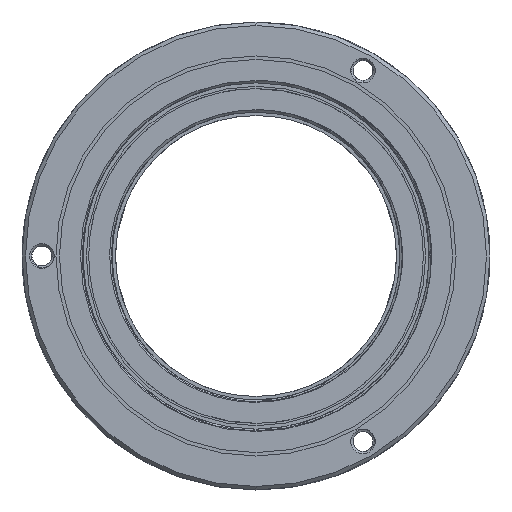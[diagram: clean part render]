
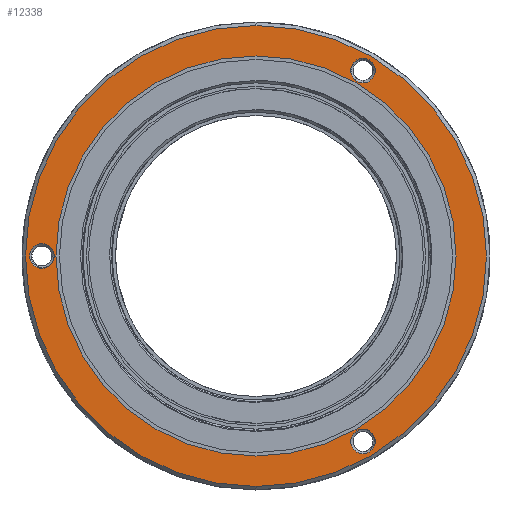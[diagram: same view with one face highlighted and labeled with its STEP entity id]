
A CAD part, left-side view. The second image highlights one B-rep face of the part: STEP entity #12338.
In plain terms, the highlighted planar face has unit normal (-1, 0, 0).
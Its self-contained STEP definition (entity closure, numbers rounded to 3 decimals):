
#402 = ORIENTED_EDGE ( 'NONE', *, *, #12889, .F. ) ;
#544 = VERTEX_POINT ( 'NONE', #948 ) ;
#570 = CARTESIAN_POINT ( 'NONE',  ( 9., 20., 0. ) ) ;
#582 = CARTESIAN_POINT ( 'NONE',  ( 9., 0., 0. ) ) ;
#648 = CARTESIAN_POINT ( 'NONE',  ( 9., 0., -17.1 ) ) ;
#948 = CARTESIAN_POINT ( 'NONE',  ( 9., -9.15, 14.798 ) ) ;
#2121 = FACE_OUTER_BOUND ( 'NONE', #4840, .T. ) ;
#2262 = DIRECTION ( 'NONE',  ( 1., 0., 0. ) ) ;
#2335 = DIRECTION ( 'NONE',  ( 1., 0., 0. ) ) ;
#2350 = DIRECTION ( 'NONE',  ( 0., 0., 1. ) ) ;
#2578 = CARTESIAN_POINT ( 'NONE',  ( 9., 0., 0. ) ) ;
#3003 = ORIENTED_EDGE ( 'NONE', *, *, #12317, .F. ) ;
#3728 = AXIS2_PLACEMENT_3D ( 'NONE', #15218, #4792, #16881 ) ;
#4066 = DIRECTION ( 'NONE',  ( -1., 0., 0. ) ) ;
#4214 = ORIENTED_EDGE ( 'NONE', *, *, #11801, .F. ) ;
#4405 = DIRECTION ( 'NONE',  ( 0., 0., -1. ) ) ;
#4417 = EDGE_CURVE ( 'NONE', #10487, #18039, #16219, .T. ) ;
#4422 = CARTESIAN_POINT ( 'NONE',  ( 9., 0., 17.1 ) ) ;
#4792 = DIRECTION ( 'NONE',  ( -1., 0., 0. ) ) ;
#4821 = VERTEX_POINT ( 'NONE', #14118 ) ;
#4840 = EDGE_LOOP ( 'NONE', ( #6150, #19994 ) ) ;
#5363 = DIRECTION ( 'NONE',  ( -1., 0., 0. ) ) ;
#5507 = AXIS2_PLACEMENT_3D ( 'NONE', #2578, #14859, #4405 ) ;
#6150 = ORIENTED_EDGE ( 'NONE', *, *, #22159, .F. ) ;
#6274 = AXIS2_PLACEMENT_3D ( 'NONE', #13685, #13617, #13599 ) ;
#6275 = AXIS2_PLACEMENT_3D ( 'NONE', #14556, #4066, #16238 ) ;
#6389 = CIRCLE ( 'NONE', #5507, 19.7 ) ;
#6593 = CIRCLE ( 'NONE', #18217, 1.05 ) ;
#6810 = CARTESIAN_POINT ( 'NONE',  ( 9., -9.15, -15.848 ) ) ;
#6908 = FACE_BOUND ( 'NONE', #17704, .T. ) ;
#8635 = DIRECTION ( 'NONE',  ( 0., 0., 1. ) ) ;
#8964 = EDGE_CURVE ( 'NONE', #13543, #16098, #6389, .T. ) ;
#9273 = CIRCLE ( 'NONE', #19280, 1.05 ) ;
#9442 = DIRECTION ( 'NONE',  ( -1., 0., 0. ) ) ;
#9827 = CIRCLE ( 'NONE', #18178, 19.7 ) ;
#10216 = CARTESIAN_POINT ( 'NONE',  ( 9., -9.15, 15.848 ) ) ;
#10415 = ORIENTED_EDGE ( 'NONE', *, *, #21097, .F. ) ;
#10487 = VERTEX_POINT ( 'NONE', #4422 ) ;
#10867 = EDGE_CURVE ( 'NONE', #11846, #15901, #6593, .T. ) ;
#11611 = EDGE_LOOP ( 'NONE', ( #4214, #15083 ) ) ;
#11669 = FACE_BOUND ( 'NONE', #18437, .T. ) ;
#11801 = EDGE_CURVE ( 'NONE', #13019, #19477, #13260, .T. ) ;
#11846 = VERTEX_POINT ( 'NONE', #12016 ) ;
#11958 = DIRECTION ( 'NONE',  ( 0., 0., 1. ) ) ;
#12016 = CARTESIAN_POINT ( 'NONE',  ( 9., -9.15, -14.798 ) ) ;
#12200 = AXIS2_PLACEMENT_3D ( 'NONE', #570, #2335, #14633 ) ;
#12317 = EDGE_CURVE ( 'NONE', #15901, #11846, #13241, .T. ) ;
#12338 = ADVANCED_FACE ( 'NONE', ( #17108, #20440, #11669, #6908, #2121 ), #21215, .F. ) ;
#12572 = CIRCLE ( 'NONE', #21744, 17.1 ) ;
#12889 = EDGE_CURVE ( 'NONE', #4821, #544, #15319, .T. ) ;
#12912 = CARTESIAN_POINT ( 'NONE',  ( 9., 0., 0. ) ) ;
#12986 = DIRECTION ( 'NONE',  ( -1., 0., 0. ) ) ;
#13019 = VERTEX_POINT ( 'NONE', #19576 ) ;
#13241 = CIRCLE ( 'NONE', #6275, 1.05 ) ;
#13260 = CIRCLE ( 'NONE', #3728, 1.05 ) ;
#13543 = VERTEX_POINT ( 'NONE', #22300 ) ;
#13599 = DIRECTION ( 'NONE',  ( 0., 0., 1. ) ) ;
#13615 = AXIS2_PLACEMENT_3D ( 'NONE', #10216, #21869, #11958 ) ;
#13617 = DIRECTION ( 'NONE',  ( -1., 0., 0. ) ) ;
#13685 = CARTESIAN_POINT ( 'NONE',  ( 9., 0., 0. ) ) ;
#13738 = CARTESIAN_POINT ( 'NONE',  ( 9., -9.15, -16.898 ) ) ;
#14118 = CARTESIAN_POINT ( 'NONE',  ( 9., -9.15, 16.898 ) ) ;
#14556 = CARTESIAN_POINT ( 'NONE',  ( 9., -9.15, -15.848 ) ) ;
#14560 = DIRECTION ( 'NONE',  ( 0., 0., -1. ) ) ;
#14633 = DIRECTION ( 'NONE',  ( 0., 0., -1. ) ) ;
#14859 = DIRECTION ( 'NONE',  ( 1., 0., 0. ) ) ;
#15083 = ORIENTED_EDGE ( 'NONE', *, *, #22147, .F. ) ;
#15218 = CARTESIAN_POINT ( 'NONE',  ( 9., 18.3, 0. ) ) ;
#15319 = CIRCLE ( 'NONE', #13615, 1.05 ) ;
#15753 = CARTESIAN_POINT ( 'NONE',  ( 9., -9.15, 15.848 ) ) ;
#15901 = VERTEX_POINT ( 'NONE', #13738 ) ;
#16098 = VERTEX_POINT ( 'NONE', #20998 ) ;
#16219 = CIRCLE ( 'NONE', #6274, 17.1 ) ;
#16238 = DIRECTION ( 'NONE',  ( 0., 0., 1. ) ) ;
#16655 = ORIENTED_EDGE ( 'NONE', *, *, #10867, .F. ) ;
#16881 = DIRECTION ( 'NONE',  ( 0., 0., 1. ) ) ;
#17108 = FACE_BOUND ( 'NONE', #21315, .T. ) ;
#17396 = DIRECTION ( 'NONE',  ( 0., 0., 1. ) ) ;
#17704 = EDGE_LOOP ( 'NONE', ( #402, #10415 ) ) ;
#17748 = CIRCLE ( 'NONE', #18675, 1.05 ) ;
#18039 = VERTEX_POINT ( 'NONE', #648 ) ;
#18178 = AXIS2_PLACEMENT_3D ( 'NONE', #12912, #2262, #14560 ) ;
#18217 = AXIS2_PLACEMENT_3D ( 'NONE', #6810, #18728, #8635 ) ;
#18437 = EDGE_LOOP ( 'NONE', ( #16655, #3003 ) ) ;
#18667 = CARTESIAN_POINT ( 'NONE',  ( 9., 18.3, -1.05 ) ) ;
#18675 = AXIS2_PLACEMENT_3D ( 'NONE', #15753, #5363, #17396 ) ;
#18728 = DIRECTION ( 'NONE',  ( -1., 0., 0. ) ) ;
#19280 = AXIS2_PLACEMENT_3D ( 'NONE', #19482, #9442, #21145 ) ;
#19477 = VERTEX_POINT ( 'NONE', #18667 ) ;
#19482 = CARTESIAN_POINT ( 'NONE',  ( 9., 18.3, 0. ) ) ;
#19576 = CARTESIAN_POINT ( 'NONE',  ( 9., 18.3, 1.05 ) ) ;
#19994 = ORIENTED_EDGE ( 'NONE', *, *, #8964, .F. ) ;
#20327 = ORIENTED_EDGE ( 'NONE', *, *, #4417, .F. ) ;
#20440 = FACE_BOUND ( 'NONE', #11611, .T. ) ;
#20665 = ORIENTED_EDGE ( 'NONE', *, *, #21324, .F. ) ;
#20998 = CARTESIAN_POINT ( 'NONE',  ( 9., 0., -19.7 ) ) ;
#21097 = EDGE_CURVE ( 'NONE', #544, #4821, #17748, .T. ) ;
#21145 = DIRECTION ( 'NONE',  ( 0., 0., 1. ) ) ;
#21215 = PLANE ( 'NONE',  #12200 ) ;
#21315 = EDGE_LOOP ( 'NONE', ( #20327, #20665 ) ) ;
#21324 = EDGE_CURVE ( 'NONE', #18039, #10487, #12572, .T. ) ;
#21744 = AXIS2_PLACEMENT_3D ( 'NONE', #582, #12986, #2350 ) ;
#21869 = DIRECTION ( 'NONE',  ( -1., 0., 0. ) ) ;
#22147 = EDGE_CURVE ( 'NONE', #19477, #13019, #9273, .T. ) ;
#22159 = EDGE_CURVE ( 'NONE', #16098, #13543, #9827, .T. ) ;
#22300 = CARTESIAN_POINT ( 'NONE',  ( 9., 0., 19.7 ) ) ;
